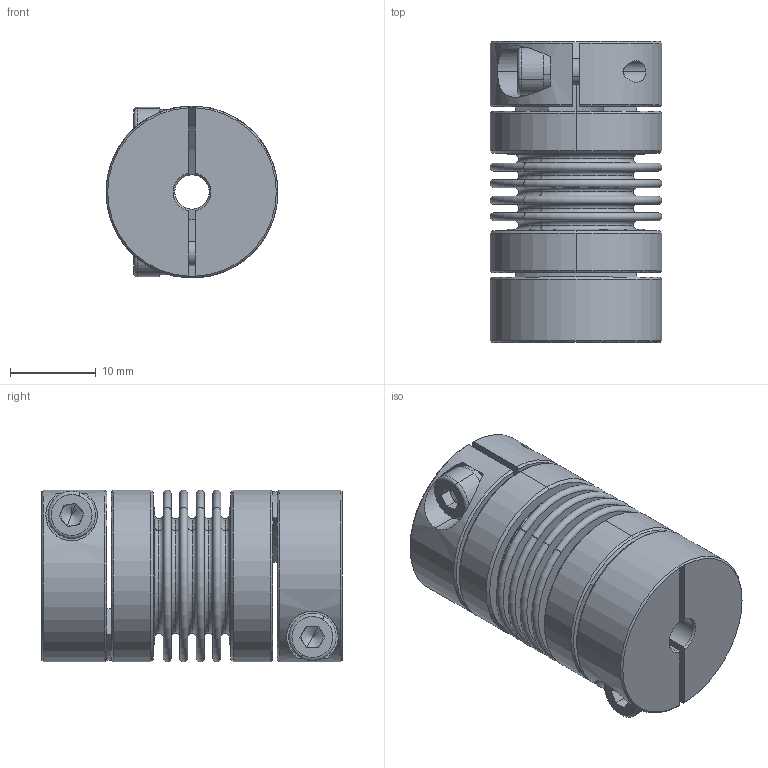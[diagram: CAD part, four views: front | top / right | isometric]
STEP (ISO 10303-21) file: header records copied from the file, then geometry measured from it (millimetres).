
FILE_DESCRIPTION (( 'STEP AP203' ), '1' );
FILE_NAME ('LB-B-D20L34-4-10.STEP', '2021-11-04T01:38:35', ( '' ), ( '' ), 'SwSTEP 2.0', 'SolidWorks 2018', '' );
FILE_SCHEMA (( 'CONFIG_CONTROL_DESIGN' ));
Length unit declared in the file: millimetre
Products named in the file (2): 零件4^LB-B-D20L34 波纹管联轴器-组装体; LB-B-D20L34-4-10
Assembly tree (1 placements, depth 2):
  LB-B-D20L34-4-10
    零件4^LB-B-D20L34 波纹管联轴器-组装体
Bounding box: 20 x 35 x 20 mm (x, y, z)
Volume: 5773.7 mm3; surface area: 9482.6 mm2
Topology: 1 solids, 1 shells, 246 faces, 572 edges, 354 vertices
Faces by surface type: plane 83, torus 68, cylinder 61, cone 34
Entity records: 7500 total; most frequent: CARTESIAN_POINT 1478, DIRECTION 1376, ORIENTED_EDGE 1136, AXIS2_PLACEMENT_3D 604, EDGE_CURVE 568, VERTEX_POINT 354, CIRCLE 354, EDGE_LOOP 288
